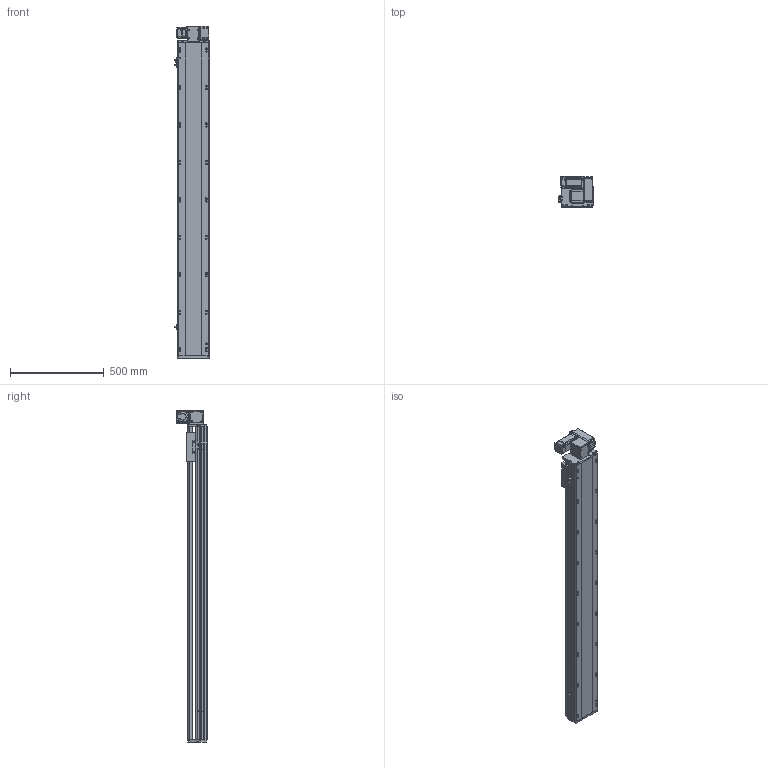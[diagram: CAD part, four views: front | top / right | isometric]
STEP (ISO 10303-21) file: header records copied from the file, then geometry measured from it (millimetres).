
FILE_DESCRIPTION (( 'STEP AP214' ), '1' );
FILE_NAME ('RTB17S-XX-1400-RW-M40-C4.STEP', '2025-12-11T09:03:19', ( '' ), ( '' ), 'SwSTEP 2.0', 'SolidWorks 2018', '' );
FILE_SCHEMA (( 'AUTOMOTIVE_DESIGN' ));
Length unit declared in the file: millimetre
Products named in the file (14): 400W侜督萇儂^RTB17S-XX-XX-RW-M40-C4; RTB17S-L-007奻裔^RTB17S-XX-XX-RW-M40-C4; RTB14-L-018P^RTB17S-RW-々湍釱蚾饜-400W_RTB17S-XX-XX-RW-M40-C4; RTB17S-RW-々湍釱蚾饜-400W^RTB17S-XX-XX-RW-M40-C4; RTH13-BL-012覜茼え俋离^RTB17S-XX-XX-RW-M40-C4; RTB17S-XX-1400-RW-M40-C4; RTB17S-L-001耜醱啣^RTB17S-XX-XX-RW-M40-C4; RTB14-L-008-M20--萇儂啣^RTB17S-RW-々湍釱蚾饜-400W_RTB17S-XX-XX-RW-M40-C4; RTB14-L-017P^RTB17S-RW-々湍釱蚾饜-400W_RTB17S-XX-XX-RW-M40-C4; OMRON EE-SX672 传感器^RTB17S-XX-XX-RW-M40-C4; RTB17S-L-004佪裝蹟譫蟀諉釱^RTB17S-XX-XX-RW-M40-C4; RTB17-R-011菁釱^RTB17S-XX-XX-RW-M40-C4; RTB14-L-005P--轴承塑胶压盖^RTB17S-RW-皮带座装配-400W_RTB17S-XX-XX-RW-M40-C4; RMP17S-L-014-T20--々湍釱^RTB17S-RW-々湍釱蚾饜-400W_RTB17S-XX-XX-RW-M40-C4
Assembly tree (16 placements, depth 3):
  RTB17S-XX-1400-RW-M40-C4
    RTB17-R-011菁釱^RTB17S-XX-XX-RW-M40-C4
    RTB17S-L-007奻裔^RTB17S-XX-XX-RW-M40-C4
    OMRON EE-SX672 传感器^RTB17S-XX-XX-RW-M40-C4  x3
    RTB17S-L-001耜醱啣^RTB17S-XX-XX-RW-M40-C4
    400W侜督萇儂^RTB17S-XX-XX-RW-M40-C4
    RTB17S-L-004佪裝蹟譫蟀諉釱^RTB17S-XX-XX-RW-M40-C4
    RTH13-BL-012覜茼え俋离^RTB17S-XX-XX-RW-M40-C4
    RTB17S-RW-々湍釱蚾饜-400W^RTB17S-XX-XX-RW-M40-C4
      RMP17S-L-014-T20--々湍釱^RTB17S-RW-々湍釱蚾饜-400W_RTB17S-XX-XX-RW-M40-C4
      RTB14-L-005P--轴承塑胶压盖^RTB17S-RW-皮带座装配-400W_RTB17S-XX-XX-RW-M40-C4
      RTB14-L-008-M20--萇儂啣^RTB17S-RW-々湍釱蚾饜-400W_RTB17S-XX-XX-RW-M40-C4
      RTB14-L-017P^RTB17S-RW-々湍釱蚾饜-400W_RTB17S-XX-XX-RW-M40-C4  x2
      RTB14-L-018P^RTB17S-RW-々湍釱蚾饜-400W_RTB17S-XX-XX-RW-M40-C4
Bounding box: 183.5 x 160.5 x 1772.5 mm (x, y, z)
Volume: 15638949.3 mm3; surface area: 1852882.1 mm2
Topology: 15 solids, 15 shells, 2237 faces, 6195 edges, 4041 vertices
Faces by surface type: plane 1072, cylinder 717, bspline 301, cone 139, torus 8
Entity records: 64169 total; most frequent: CARTESIAN_POINT 18000, ORIENTED_EDGE 9234, DIRECTION 8576, EDGE_CURVE 4617, VERTEX_POINT 3029, AXIS2_PLACEMENT_3D 2959, VECTOR 2658, LINE 2658
